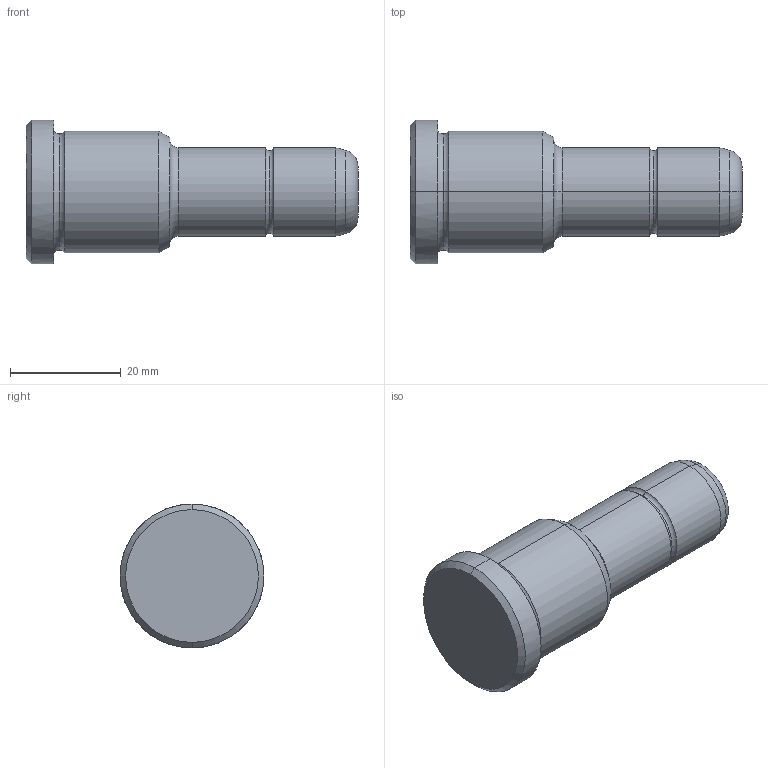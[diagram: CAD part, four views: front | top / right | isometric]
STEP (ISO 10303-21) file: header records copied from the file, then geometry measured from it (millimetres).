
FILE_DESCRIPTION(('CATIA V5 STEP Exchange'),'2;1');
FILE_NAME('C:\Users\Utente\Desktop\IO LAVORO\3D X SITO CF\X SITO\PLASTICA\351\351-16X26X60.stp','2021-08-18T10:54:24+00:00',('none'),('none'),'CATIA Version 5 Release 20 GA (IN-10)','CATIA V5 STEP AP203','none');
FILE_SCHEMA(('CONFIG_CONTROL_DESIGN'));
Length unit declared in the file: millimetre
Products named in the file (1): 351-16X26X60
Bounding box: 60 x 26 x 26 mm (x, y, z)
Volume: 17162 mm3; surface area: 4433.9 mm2
Topology: 1 solids, 1 shells, 30 faces, 86 edges, 60 vertices
Faces by surface type: torus 12, cylinder 8, cone 6, plane 4
Entity records: 1112 total; most frequent: CARTESIAN_POINT 289, ORIENTED_EDGE 172, DIRECTION 138, AXIS2_PLACEMENT_3D 95, EDGE_CURVE 86, CIRCLE 64, VERTEX_POINT 60, EDGE_LOOP 32
